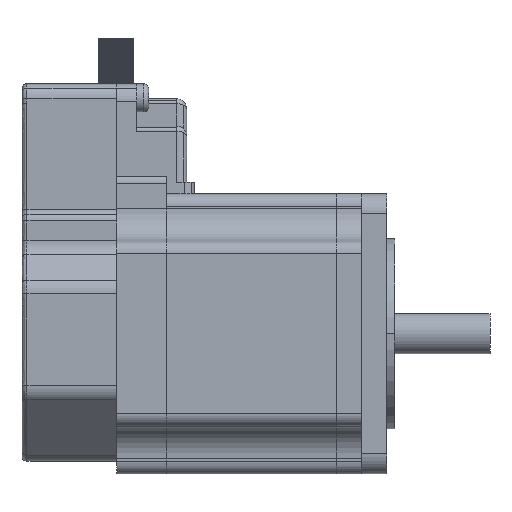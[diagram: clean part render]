
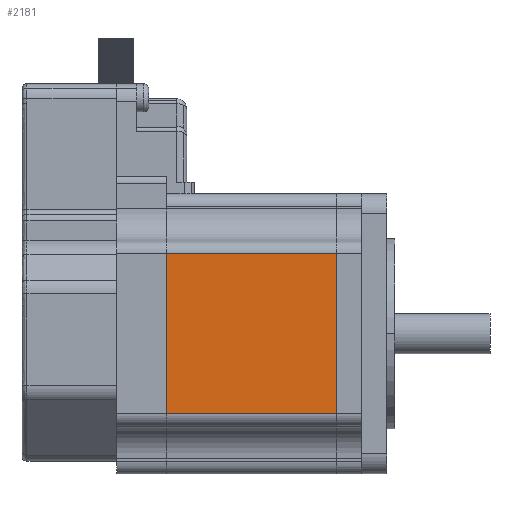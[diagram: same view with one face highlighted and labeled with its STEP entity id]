
A CAD part, front view. The second image highlights one B-rep face of the part: STEP entity #2181.
In plain terms, the highlighted planar face has unit normal (0, -1, 0).
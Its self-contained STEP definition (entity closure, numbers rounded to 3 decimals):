
#2181=ADVANCED_FACE('',(#4333),#4334,.F.);
#4333=FACE_OUTER_BOUND('',#7336,.T.);
#4334=PLANE('',#7337);
#7336=EDGE_LOOP('',(#13932,#13933,#13934,#13935));
#7337=AXIS2_PLACEMENT_3D('',#13936,#13937,#13938);
#13932=ORIENTED_EDGE('',*,*,#14532,.F.);
#13933=ORIENTED_EDGE('',*,*,#16901,.F.);
#13934=ORIENTED_EDGE('',*,*,#16447,.F.);
#13935=ORIENTED_EDGE('',*,*,#16627,.F.);
#13936=CARTESIAN_POINT('',(726.529,80.8,-28.06));
#13937=DIRECTION('',(0.,1.0,0.0));
#13938=DIRECTION('',(-1.0,0.,0.));
#14532=EDGE_CURVE('',#17375,#17377,#17378,.T.);
#16447=EDGE_CURVE('',#20386,#20388,#20389,.T.);
#16627=EDGE_CURVE('',#17377,#20386,#20626,.T.);
#16901=EDGE_CURVE('',#20388,#17375,#20927,.T.);
#17375=VERTEX_POINT('',#21491);
#17377=VERTEX_POINT('',#21493);
#17378=LINE('',#21494,#21495);
#20386=VERTEX_POINT('',#25957);
#20388=VERTEX_POINT('',#25959);
#20389=LINE('',#25960,#25961);
#20626=LINE('',#26319,#26320);
#20927=LINE('',#26752,#26753);
#21491=CARTESIAN_POINT('',(726.529,80.8,-28.06));
#21493=CARTESIAN_POINT('',(692.449,80.8,-28.06));
#21494=CARTESIAN_POINT('',(709.489,80.8,-28.06));
#21495=VECTOR('',#27176,6.816);
#25957=CARTESIAN_POINT('',(692.449,80.8,3.94));
#25959=CARTESIAN_POINT('',(726.529,80.8,3.94));
#25960=CARTESIAN_POINT('',(709.489,80.8,3.94));
#25961=VECTOR('',#29103,6.816);
#26319=CARTESIAN_POINT('',(692.449,80.8,-12.06));
#26320=VECTOR('',#29297,1.0);
#26752=CARTESIAN_POINT('',(726.529,80.8,-12.06));
#26753=VECTOR('',#29495,1.0);
#27176=DIRECTION('',(-1.0,0.,0.));
#29103=DIRECTION('',(1.0,0.,0.));
#29297=DIRECTION('',(0.,0.,1.0));
#29495=DIRECTION('',(0.,0.,-1.0));
